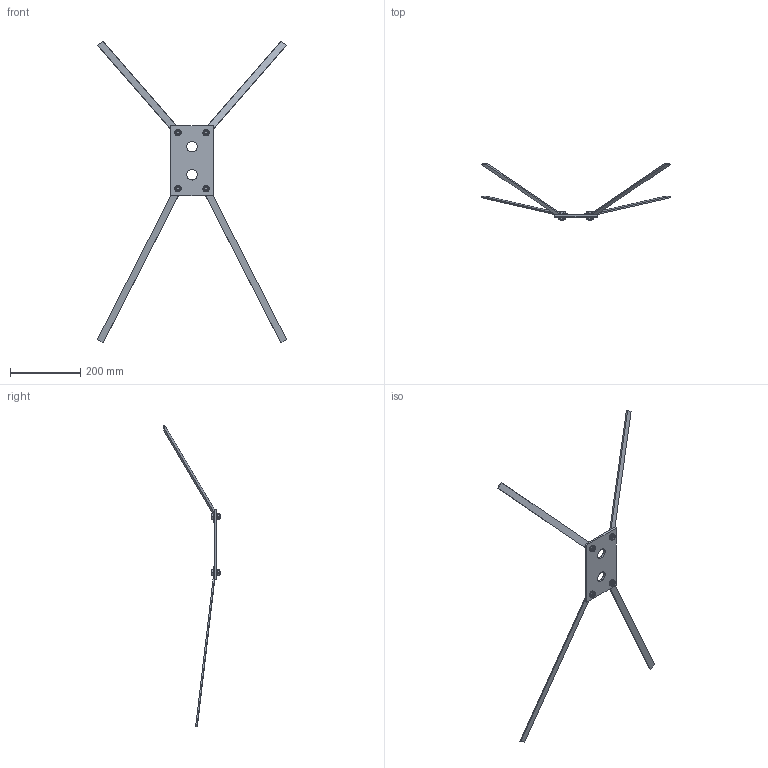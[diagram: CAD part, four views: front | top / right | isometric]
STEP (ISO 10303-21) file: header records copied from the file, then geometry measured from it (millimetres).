
FILE_DESCRIPTION(/* description */ ('Assembly4-tricycle cargo bike B'),/* implementation_level */ '2;1');
FILE_NAME(/* name */ 'C:\Users\Apardo\Documents\Proyectos\Dietrich\Proyecto 1\tricycle cargo bike B\STEP\Assembly4-tricycle cargo bike B.stp',/* time_stamp */ '2021-02-07T09:23:51-04:00',/* author */ ('Apardo'),/* organization */ ('25'),/* preprocessor_version */ 'ST-DEVELOPER v18',/* originating_system */ 'Autodesk Inventor 2020',/* authorisation */ '');
FILE_SCHEMA (('AUTOMOTIVE_DESIGN { 1 0 10303 214 3 1 1 }'));
Length unit declared in the file: millimetre
Products named in the file (7): Assembly4-tricycle cargo bike B; wl_lacb_4.1_Security-plate; wl_lacb_24.2_Stru; wl_lacb_4.3_Strut; ASME B18.21.2M - 10, LWSHHSLW; ANSI B18.2.4.5M - M10 x 1.5; ANSI B18.2.3.5M - M10 x 1,5 x 20
Assembly tree (17 placements, depth 2):
  Assembly4-tricycle cargo bike B
    wl_lacb_4.1_Security-plate
    wl_lacb_24.2_Stru  x2
    wl_lacb_4.3_Strut  x2
    ASME B18.21.2M - 10, LWSHHSLW  x4
    ANSI B18.2.4.5M - M10 x 1.5  x4
    ANSI B18.2.3.5M - M10 x 1,5 x 20  x4
Bounding box: 539.48 x 162.01 x 858.96 mm (x, y, z)
Volume: 283241.6 mm3; surface area: 142901.8 mm2
Topology: 17 solids, 17 shells, 260 faces, 576 edges, 354 vertices
Faces by surface type: plane 138, cone 84, cylinder 34, torus 4
Full cylindrical faces by diameter (mm): 8.376 x4, 10 x12, 30 x2
Entity records: 2861 total; most frequent: CARTESIAN_POINT 515, DIRECTION 465, ORIENTED_EDGE 406, EDGE_CURVE 203, AXIS2_PLACEMENT_3D 185, VERTEX_POINT 127, EDGE_LOOP 108, LINE 95
